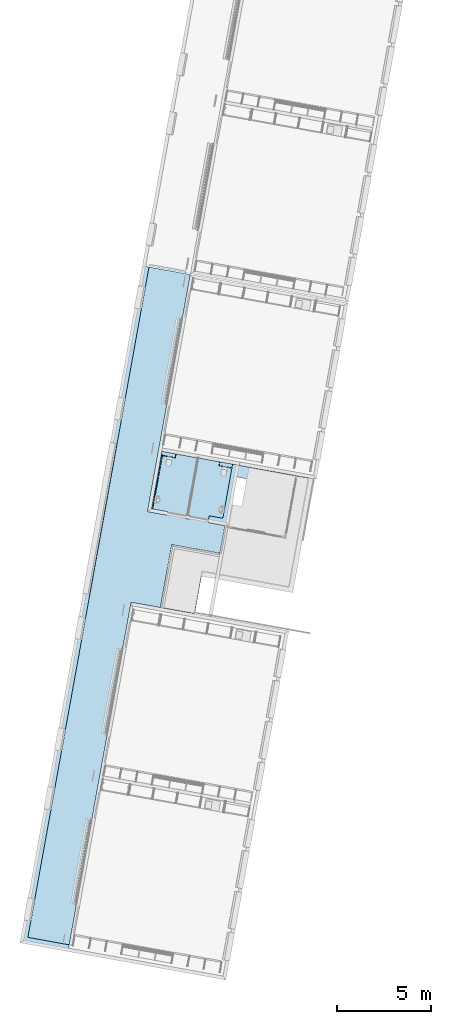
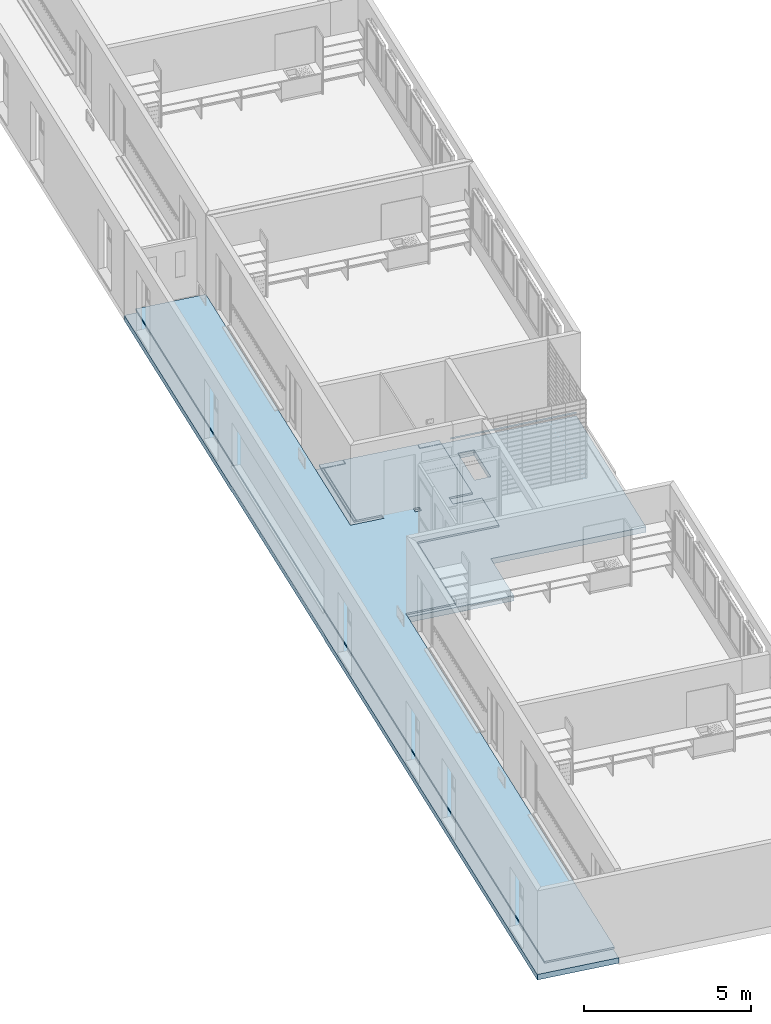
# One storey, part 4 of 52: 2 slabs, 1 element without a shape of its own.
"""IFC2X3 building model written with IfcOpenShell, lengths in metres."""

from ifc_helpers import new_model, entity, si_unit, converted_unit, derived_unit, money_unit, direction, frame, origin_with_axes, place, context, subcontext, project, spatial, faceted_brep, material, type_object, element, aggregate, save


model = new_model("IFC2X3")

# Units and contexts
model_context = context("Model", 3, precision=1e-05, world=origin_with_axes(), true_north=direction((0.0, 1.0)))
body_context = subcontext(model_context, "Body", "Model", "MODEL_VIEW")
ifc_project = project(units=[si_unit("LENGTHUNIT", "METRE"), si_unit("AREAUNIT", "SQUARE_METRE"), si_unit("VOLUMEUNIT", "CUBIC_METRE"), converted_unit("PLANEANGLEUNIT", "DEGREE", entity("IfcPlaneAngleMeasure", 0.0174532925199), si_unit("PLANEANGLEUNIT", "RADIAN"), dimensions=[0, 0, 0, 0, 0, 0, 0]), money_unit("CHF"), converted_unit("TIMEUNIT", "Year", entity("IfcTimeMeasure", 31556926.0), si_unit("TIMEUNIT", "SECOND"), dimensions=[0, 0, 1, 0, 0, 0, 0]), si_unit("MASSUNIT", "GRAM", prefix="KILO"), si_unit("THERMODYNAMICTEMPERATUREUNIT", "DEGREE_CELSIUS"), si_unit("LUMINOUSINTENSITYUNIT", "LUMEN"), si_unit("ENERGYUNIT", "JOULE", prefix="MEGA"), derived_unit("THERMALCONDUCTANCEUNIT", [(si_unit("POWERUNIT", "WATT"), 1), (si_unit("LENGTHUNIT", "METRE"), -1), (si_unit("THERMODYNAMICTEMPERATUREUNIT", "KELVIN"), -1)]), derived_unit("SPECIFICHEATCAPACITYUNIT", [(si_unit("ENERGYUNIT", "JOULE"), 1), (si_unit("MASSUNIT", "GRAM", prefix="KILO"), -1), (si_unit("THERMODYNAMICTEMPERATUREUNIT", "KELVIN"), -1)]), derived_unit("MASSDENSITYUNIT", [(si_unit("MASSUNIT", "GRAM", prefix="KILO"), 1), (si_unit("VOLUMEUNIT", "CUBIC_METRE"), -1)])], contexts=[model_context])

# Site, building, storey
site_placement = place(None, frame((0.0, 0.0, 0.0), z_axis=(0.0, 0.0, 1.0), x_axis=(-0.177771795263, -0.984071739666, 0.0)))
site = spatial("IfcSite", under=ifc_project, at=site_placement, Name="Site", CompositionType="ELEMENT")
building_placement = place(site_placement, origin_with_axes())
building = spatial("IfcBuilding", under=site, at=building_placement, Name="Bâtiment", CompositionType="ELEMENT")
storey_placement = place(building_placement, frame((0.0, 0.0, 3.2), z_axis=(0.0, 0.0, 1.0), x_axis=(1.0, 0.0, 0.0)))
storey = spatial("IfcBuildingStorey", under=building, at=storey_placement, Name="R+1", CompositionType="ELEMENT", Elevation=3.2)

# Slabs
slab_type_1 = type_object("IfcSlabType", Name="_Dalle 20+15 gris 350", PredefinedType="FLOOR")
slab_1_placement = place(storey_placement, frame((0.0, 0.0, -3.2), z_axis=(0.0, 0.0, 1.0), x_axis=(1.0, 0.0, 0.0)))
slab_1 = element("IfcSlab", 1, at=slab_1_placement, inside=storey, type_object=slab_type_1, Name="dalle-couloir", PredefinedType="FLOOR")
ifc_material_1 = material(Name="_BA banché RAL9007")
slab_type_2 = type_object("IfcSlabType", Name="Elément Modèle 207", PredefinedType="FLOOR")
slab_2_placement = place(slab_1_placement, frame((128.504841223, -159.217107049, 3.2), z_axis=(0.0, 0.0, 1.0), x_axis=(1.0, 0.0, 0.0)))
slab_2 = element("IfcSlab", 2, at=slab_2_placement, type_object=slab_type_2, material=ifc_material_1, Name="_BA banché RAL9007", PredefinedType="FLOOR", context=body_context, shape_type="Brep", body=[
    faceted_brep([(9.50999998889, 0.0, -0.15), (9.50999998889, 0.00999999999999, -0.15), (17.685, 0.00999999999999, -0.15), (17.685, 0.0, -0.15), (36.5249998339, 0.0, -0.15), (36.5249998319, 2.59007537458, -0.15), (17.685, 2.59005788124, -0.15), (17.685, 6.02172611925, -0.15), (15.655, 6.02172611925, -0.15), (15.655, 10.9499569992, -0.15), (9.50998049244, 10.9499557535, -0.15), (9.51, 2.58995564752, -0.15), (0.0, 2.58995564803, -0.15), (0.0, 0.0, -0.15), (11.6299991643, 6.94995607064, -0.15), (10.1449991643, 6.94995607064, -0.15), (10.1449991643, 7.46995607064, -0.15), (11.6299991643, 7.46995607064, -0.15), (9.50999998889, 0.0, -0.35), (9.50999998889, 0.00999999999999, -0.35), (17.685, 0.00999999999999, -0.35), (17.685, 0.0, -0.35), (36.5249998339, 0.0, -0.35), (36.5249998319, 2.59007537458, -0.35), (17.685, 2.59005788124, -0.35), (17.685, 6.02172611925, -0.35), (15.655, 6.02172611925, -0.35), (15.655, 10.9499569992, -0.35), (9.50998049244, 10.9499557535, -0.35), (9.51, 2.58995564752, -0.35), (0.0, 2.58995564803, -0.35), (0.0, 0.0, -0.35), (10.1449991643, 6.94995607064, -0.35), (11.6299991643, 6.94995607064, -0.35), (10.1449991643, 7.46995607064, -0.35), (11.6299991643, 7.46995607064, -0.35)], [[[0, 1, 2, 3, 4, 5, 6, 7, 8, 9, 10, 11, 12, 13], [14, 15, 16, 17]], [[1, 0, 18, 19]], [[2, 1, 19, 20]], [[3, 2, 20, 21]], [[3, 21, 22, 4]], [[5, 4, 22, 23]], [[6, 5, 23, 24]], [[7, 6, 24, 25]], [[8, 7, 25, 26]], [[9, 8, 26, 27]], [[10, 9, 27, 28]], [[11, 10, 28, 29]], [[12, 11, 29, 30]], [[13, 12, 30, 31]], [[18, 0, 13, 31]], [[32, 15, 14, 33]], [[34, 16, 15, 32]], [[35, 17, 16, 34]], [[33, 14, 17, 35]], [[19, 18, 31, 30, 29, 28, 27, 26, 25, 24, 23, 22, 21, 20], [34, 32, 33, 35]]]),
])
ifc_material_2 = material(Name="_Chape")
slab_type_3 = type_object("IfcSlabType", Name="Elément Modèle 208", PredefinedType="FLOOR")
slab_3_placement = place(slab_1_placement, frame((128.504841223, -159.217107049, 3.2), z_axis=(0.0, 0.0, 1.0), x_axis=(1.0, 0.0, 0.0)))
slab_3 = element("IfcSlab", 3, at=slab_3_placement, type_object=slab_type_3, material=ifc_material_2, Name="_Chape", PredefinedType="FLOOR", context=body_context, shape_type="Brep", body=[
    faceted_brep([(14.2899992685, 6.7699561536, -0.06), (14.2899992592, 4.16995756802, -0.06), (17.6849999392, 4.16996245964, -0.060000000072), (17.685, 2.59005788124, -0.06), (17.685, 2.58995411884, -0.06), (36.164999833, 2.58995411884, -0.06), (36.164999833, 0.36, -0.06), (0.0, 0.36, -0.06), (0.0, 2.58995564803, -0.06), (9.51, 2.58995564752, -0.06), (12.790000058, 2.58995564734, -0.06), (12.7899998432, 3.64995696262, -0.06), (12.6099998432, 3.64995692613, -0.06), (12.6100000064, 2.84495664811, -0.06), (9.72999998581, 2.84495664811, -0.06), (9.72999999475, 3.53995664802, -0.06), (9.51, 3.53995664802, -0.06), (9.51, 5.8899048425, -0.06), (9.73000000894, 5.8899048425, -0.06), (9.73, 6.5899554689, -0.06), (12.4299992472, 6.58995601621, -0.06), (12.4299993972, 5.84995688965, -0.06), (12.7899993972, 5.84995696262, -0.06), (12.7899991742, 6.76995615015, -0.0600000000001), (12.6099996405, 4.64995692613, -0.06), (12.7899996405, 4.64995696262, -0.06), (12.7899995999, 4.84995696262, -0.06), (12.6099995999, 4.84995692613, -0.06), (14.2899993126, 6.76995615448, 0.0), (14.2899993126, 4.16995599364, 0.0), (17.6849999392, 4.16996416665, 0.0), (17.685, 2.59005788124, 0.0), (17.685, 2.58995411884, 0.0), (36.164999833, 2.58995411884, 0.0), (36.164999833, 0.36, 0.0), (0.0, 0.36, 0.0), (0.0, 2.58995564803, 0.0), (9.51, 2.58995564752, 0.0), (12.790000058, 2.58995564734, 0.0), (12.7899998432, 3.64995696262, 0.0), (12.6099998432, 3.64995692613, 0.0), (12.6100000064, 2.84495664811, 0.0), (9.72999998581, 2.84495664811, 0.0), (9.72999999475, 3.53995664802, 0.0), (9.51, 3.53995664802, 0.0), (9.51, 5.8899048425, 0.0), (9.73000000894, 5.8899048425, 0.0), (9.73, 6.5899554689, 0.0), (12.4299992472, 6.58995601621, 0.0), (12.4299993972, 5.84995688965, 0.0), (12.7899993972, 5.84995696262, 0.0), (12.7899991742, 6.76995615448, 0.0), (12.6099996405, 4.64995692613, 0.0), (12.7899996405, 4.64995696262, 0.0), (12.7899995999, 4.84995696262, 0.0), (12.6099995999, 4.84995692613, 0.0)], [[[0, 1, 2, 3, 4, 5, 6, 7, 8, 9, 10, 11, 12, 13, 14, 15, 16, 17, 18, 19, 20, 21, 22, 23], [24, 25, 26, 27]], [[0, 28, 29, 1]], [[1, 29, 30, 2]], [[3, 2, 30, 31, 32, 4]], [[33, 5, 4, 32]], [[34, 6, 5, 33]], [[35, 7, 6, 34]], [[35, 36, 8, 7]], [[8, 36, 37, 38, 10, 9]], [[11, 10, 38, 39]], [[12, 11, 39, 40]], [[13, 12, 40, 41]], [[14, 13, 41, 42]], [[15, 14, 42, 43]], [[16, 15, 43, 44]], [[44, 45, 17, 16]], [[17, 45, 46, 18]], [[18, 46, 47, 19]], [[19, 47, 48, 20]], [[20, 48, 49, 21]], [[21, 49, 50, 22]], [[22, 50, 51, 23]], [[23, 51, 28, 0]], [[52, 53, 25, 24]], [[53, 54, 26, 25]], [[54, 55, 27, 26]], [[55, 52, 24, 27]], [[47, 46, 45, 44, 43, 42, 41, 40, 39, 38, 37, 36, 35, 34, 33, 32, 31, 30, 29, 28, 51, 50, 49, 48], [52, 55, 54, 53]]]),
    faceted_brep([(9.51000000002, 6.94995542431, -0.06), (9.51000000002, 6.94995542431, 0.0), (9.51, 6.9500716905, 0.0), (9.51, 10.9199557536, 0.0), (9.51, 10.9499557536, 0.0), (9.51, 10.9499557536, -0.06), (9.51, 10.9199557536, -0.06), (9.51, 6.9500716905, -0.06), (9.51003142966, 6.94995608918, -0.06), (9.51003142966, 6.94995608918, 0.0), (9.51003142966, 10.9499560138, 0.0), (9.51003142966, 10.9499560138, -0.06)], [[[0, 1, 2, 3, 4, 5, 6, 7]], [[1, 0, 8, 9]], [[3, 2, 1, 9, 10, 4]], [[5, 4, 10, 11]], [[7, 6, 5, 11, 8, 0]], [[9, 8, 11, 10]]]),
    faceted_brep([(9.51, 5.9079048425, 0.0), (9.712, 5.9079048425, 0.0), (9.712, 6.5899554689, 0.0), (9.51000000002, 6.58995542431, 0.0), (9.51, 5.9079048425, -0.06), (9.712, 5.9079048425, -0.06), (9.712, 6.5899554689, -0.06), (9.51000000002, 6.58995542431, -0.06)], [[[0, 1, 2, 3]], [[1, 0, 4, 5]], [[2, 1, 5, 6]], [[3, 2, 6, 7]], [[4, 0, 3, 7]], [[5, 4, 7, 6]]]),
    faceted_brep([(9.67599998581, 2.84495664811, 0.0), (9.71199998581, 2.84495664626, 0.0), (9.71199998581, 3.52195664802, 0.0), (9.51, 3.52195664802, 0.0), (9.50999957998, 2.76995564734, 0.0), (9.71199998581, 2.7699556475, 0.0), (9.71199998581, 2.82495664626, 0.0), (9.67599998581, 2.82495664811, 0.0), (9.67599998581, 2.84495664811, -0.06), (9.71199998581, 2.84495664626, -0.06), (9.71199998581, 3.52195664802, -0.06), (9.51, 3.52195664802, -0.06), (9.50999957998, 2.76995564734, -0.06), (9.71199998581, 2.7699556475, -0.06), (9.71199998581, 2.82495664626, -0.06), (9.67599998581, 2.82495664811, -0.06)], [[[0, 1, 2, 3, 4, 5, 6, 7]], [[1, 0, 8, 9]], [[2, 1, 9, 10]], [[3, 2, 10, 11]], [[12, 4, 3, 11]], [[5, 4, 12, 13]], [[6, 5, 13, 14]], [[7, 6, 14, 15]], [[0, 7, 15, 8]], [[13, 12, 11, 10, 9, 8, 15, 14]]]),
    faceted_brep([(9.72999998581, 2.7699556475, -0.06), (9.72999998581, 2.82495664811, -0.06), (12.6100000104, 2.82495664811, -0.06), (12.6100000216, 2.76995564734, -0.06), (9.72999998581, 2.7699556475, 0.0), (9.72999998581, 2.82495664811, 0.0), (12.6100000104, 2.82495664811, 0.0), (12.6100000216, 2.76995564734, 0.0)], [[[0, 1, 2, 3]], [[4, 5, 1, 0]], [[5, 6, 2, 1]], [[6, 7, 3, 2]], [[7, 4, 0, 3]], [[4, 7, 6, 5]]]),
])
aggregate(slab_1, [slab_2, slab_3])

save(model, "model.ifc")
